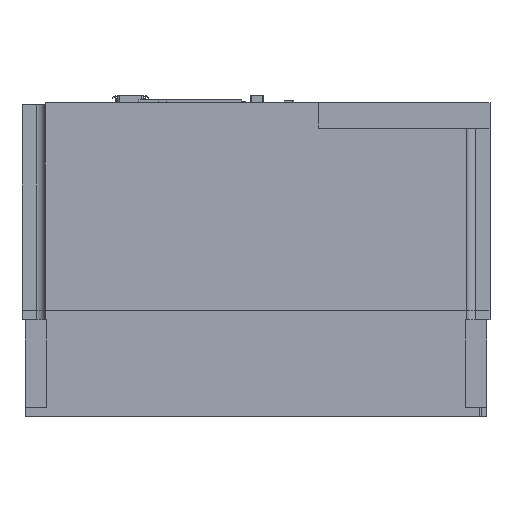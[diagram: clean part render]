
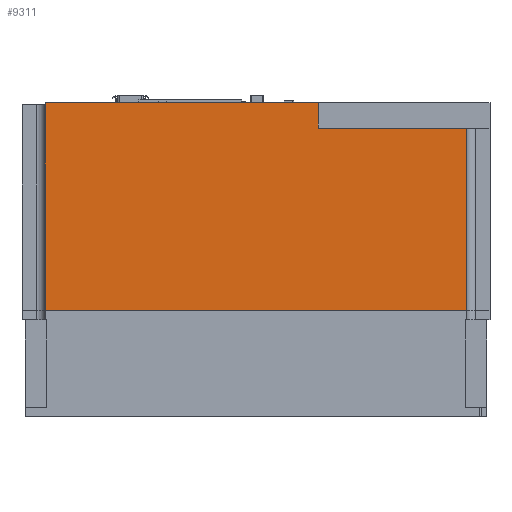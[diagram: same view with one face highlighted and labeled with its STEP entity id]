
A CAD part, left-side view. The second image highlights one B-rep face of the part: STEP entity #9311.
In plain terms, the highlighted planar face has unit normal (-1, 0, 0).
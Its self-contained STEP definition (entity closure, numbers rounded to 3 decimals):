
#2652=DIRECTION('',(0.,-1.,0.));
#2653=VECTOR('',#2652,270.);
#2654=CARTESIAN_POINT('',(-86.,135.,0.));
#2655=LINE('',#2654,#2653);
#4658=DIRECTION('',(0.,1.,0.));
#4659=VECTOR('',#4658,95.);
#4660=CARTESIAN_POINT('',(-86.,-135.,117.));
#4661=LINE('',#4660,#4659);
#4662=DIRECTION('',(0.,0.,1.));
#4663=VECTOR('',#4662,117.);
#4664=CARTESIAN_POINT('',(-86.,-135.,0.));
#4665=LINE('',#4664,#4663);
#4674=DIRECTION('',(0.,0.,-1.));
#4675=VECTOR('',#4674,133.2);
#4676=CARTESIAN_POINT('',(-86.,135.,133.2));
#4677=LINE('',#4676,#4675);
#4737=DIRECTION('',(0.,-1.,0.));
#4738=VECTOR('',#4737,175.);
#4739=CARTESIAN_POINT('',(-86.,135.,133.2));
#4740=LINE('',#4739,#4738);
#4767=DIRECTION('',(0.,0.,1.));
#4768=VECTOR('',#4767,16.2);
#4769=CARTESIAN_POINT('',(-86.,-40.,117.));
#4770=LINE('',#4769,#4768);
#5787=CARTESIAN_POINT('',(-86.,135.,0.));
#5788=CARTESIAN_POINT('',(-86.,-135.,0.));
#5789=VERTEX_POINT('',#5787);
#5790=VERTEX_POINT('',#5788);
#5795=CARTESIAN_POINT('',(-86.,-135.,117.));
#5796=CARTESIAN_POINT('',(-86.,-40.,117.));
#5797=VERTEX_POINT('',#5795);
#5798=VERTEX_POINT('',#5796);
#6413=CARTESIAN_POINT('',(-86.,135.,133.2));
#6414=CARTESIAN_POINT('',(-86.,-40.,133.2));
#6415=VERTEX_POINT('',#6413);
#6416=VERTEX_POINT('',#6414);
#9295=CARTESIAN_POINT('',(-86.,150.,0.));
#9296=DIRECTION('',(-1.,0.,0.));
#9297=DIRECTION('',(0.,-1.,0.));
#9298=AXIS2_PLACEMENT_3D('',#9295,#9296,#9297);
#9299=PLANE('',#9298);
#9301=ORIENTED_EDGE('',*,*,#9300,.F.);
#9303=ORIENTED_EDGE('',*,*,#9302,.T.);
#9305=ORIENTED_EDGE('',*,*,#9304,.F.);
#9306=ORIENTED_EDGE('',*,*,#9216,.F.);
#9307=ORIENTED_EDGE('',*,*,#9289,.F.);
#9308=ORIENTED_EDGE('',*,*,#6838,.F.);
#9309=EDGE_LOOP('',(#9301,#9303,#9305,#9306,#9307,#9308));
#9310=FACE_OUTER_BOUND('',#9309,.F.);
#9311=ADVANCED_FACE('',(#9310),#9299,.T.);
#6838=EDGE_CURVE('',#5789,#5790,#2655,.T.);
#9216=EDGE_CURVE('',#5797,#5798,#4661,.T.);
#9289=EDGE_CURVE('',#5790,#5797,#4665,.T.);
#9300=EDGE_CURVE('',#6415,#5789,#4677,.T.);
#9302=EDGE_CURVE('',#6415,#6416,#4740,.T.);
#9304=EDGE_CURVE('',#5798,#6416,#4770,.T.);
